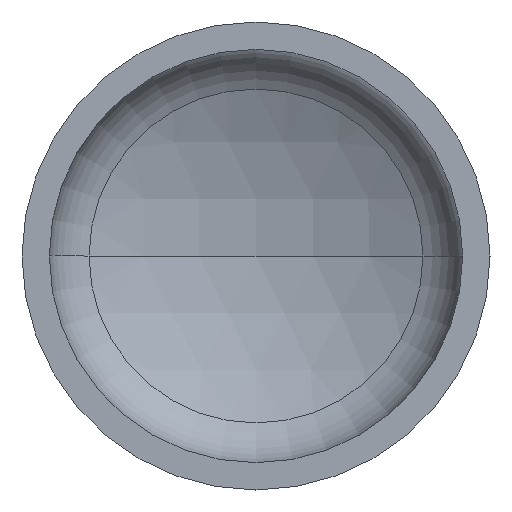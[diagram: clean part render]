
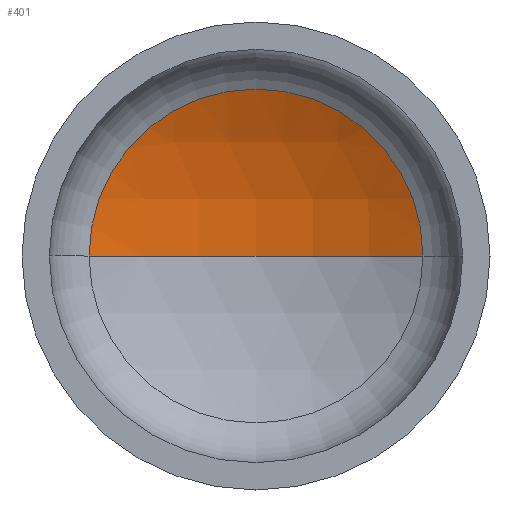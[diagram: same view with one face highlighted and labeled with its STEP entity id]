
A CAD part, front view. The second image highlights one B-rep face of the part: STEP entity #401.
In plain terms, the highlighted spherical face has radius 480 mm.
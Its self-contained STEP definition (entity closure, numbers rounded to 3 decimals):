
#6 = EDGE_LOOP ( 'NONE', ( #74, #65, #20 ) ) ;
#20 = ORIENTED_EDGE ( 'NONE', *, *, #158, .T. ) ;
#21 = VERTEX_POINT ( 'NONE', #291 ) ;
#22 = VERTEX_POINT ( 'NONE', #287 ) ;
#65 = ORIENTED_EDGE ( 'NONE', *, *, #159, .T. ) ;
#70 = AXIS2_PLACEMENT_3D ( 'NONE', #256, #278, #276 ) ;
#74 = ORIENTED_EDGE ( 'NONE', *, *, #162, .F. ) ;
#76 = VERTEX_POINT ( 'NONE', #230 ) ;
#80 = AXIS2_PLACEMENT_3D ( 'NONE', #283, #187, #204 ) ;
#83 = AXIS2_PLACEMENT_3D ( 'NONE', #123, #317, #264 ) ;
#123 = CARTESIAN_POINT ( 'NONE',  ( 0., 192.349, 0. ) ) ;
#158 = EDGE_CURVE ( 'NONE', #76, #21, #342, .T. ) ;
#159 = EDGE_CURVE ( 'NONE', #22, #76, #270, .T. ) ;
#162 = EDGE_CURVE ( 'NONE', #22, #21, #332, .T. ) ;
#187 = DIRECTION ( 'NONE',  ( 0., 0., -1. ) ) ;
#204 = DIRECTION ( 'NONE',  ( -1., 0., 0. ) ) ;
#230 = CARTESIAN_POINT ( 'NONE',  ( 214.021, 192.349, 0. ) ) ;
#247 = CARTESIAN_POINT ( 'NONE',  ( 0., -237.297, 0. ) ) ;
#256 = CARTESIAN_POINT ( 'NONE',  ( 0., -237.297, 0. ) ) ;
#264 = DIRECTION ( 'NONE',  ( 1., 0., 0. ) ) ;
#270 = CIRCLE ( 'NONE', #80, 480. ) ;
#276 = DIRECTION ( 'NONE',  ( 1., 0., 0. ) ) ;
#278 = DIRECTION ( 'NONE',  ( 0., 0., 1. ) ) ;
#283 = CARTESIAN_POINT ( 'NONE',  ( 0., -237.297, 0. ) ) ;
#287 = CARTESIAN_POINT ( 'NONE',  ( 0., 242.703, 0. ) ) ;
#291 = CARTESIAN_POINT ( 'NONE',  ( -214.021, 192.349, 0. ) ) ;
#317 = DIRECTION ( 'NONE',  ( 0., -1., 0. ) ) ;
#332 = CIRCLE ( 'NONE', #70, 480. ) ;
#342 = CIRCLE ( 'NONE', #83, 214.021 ) ;
#364 = AXIS2_PLACEMENT_3D ( 'NONE', #247, #367, #366 ) ;
#366 = DIRECTION ( 'NONE',  ( -1., 0., 0. ) ) ;
#367 = DIRECTION ( 'NONE',  ( 0., 0., -1. ) ) ;
#400 = SPHERICAL_SURFACE ( 'NONE', #364, 480. ) ;
#401 = ADVANCED_FACE ( 'NONE', ( #408 ), #400, .F. ) ;
#408 = FACE_OUTER_BOUND ( 'NONE', #6, .T. ) ;
